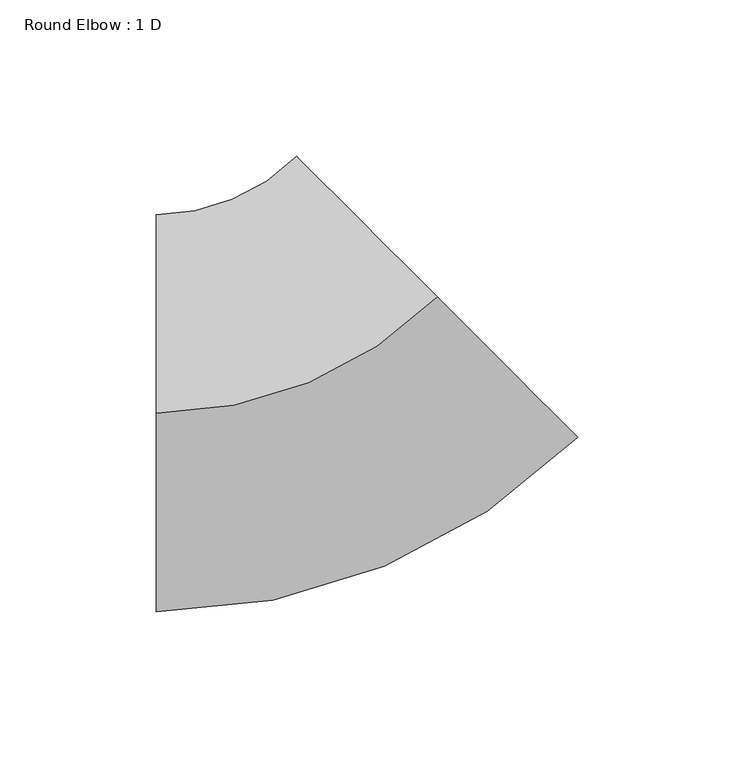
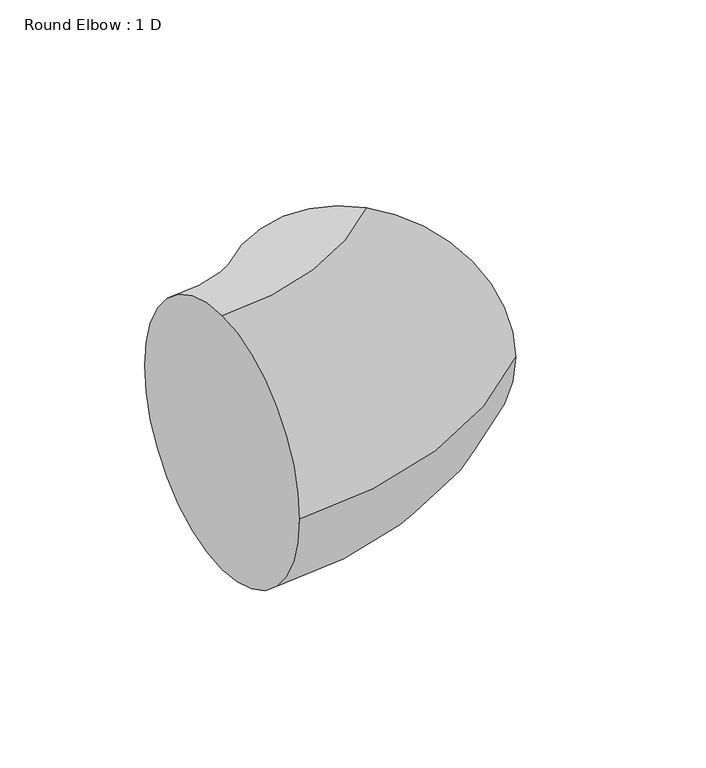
"""IFC4 building model written with IfcOpenShell, lengths in millimetres: duct fitting geometry, Round Elbow : 1 D."""

from ifc_helpers import new_model, si_unit, point, frame, origin, place, context, project, spatial, circle_curve, ellipse_curve, trimmed, source, transform, mapped, element, save
from ifc_brep_helpers import plane_surface, revolved_surface, advanced_brep


def round_elbow_1_d_e3dc691b(model_context):
    return source(origin(), model_context, "Body", "AdvancedBrep", [
        advanced_brep(
        [(-52.6051224, 0.0, 63.5), (-52.6051224, 63.5, 0.0), (-52.6051224, 0.0, -63.5), (-52.6051224, -63.5, 0.0), (37.1974388, 37.1974388, 63.5), (82.0987194, -7.7038418, 0.0), (37.1974388, 37.1974388, -63.5), (-7.7038418, 82.0987194, 0.0)],
        [
            (0, 1, circle_curve(frame((-52.6051224, 0.0, 0.0), z_axis=(-1.0, 0.0, 0.0), x_axis=(0.0, 1.0, 0.0)), 63.5)),
            (1, 2, circle_curve(frame((-52.6051224, 0.0, 0.0), z_axis=(-1.0, 0.0, 0.0), x_axis=(0.0, 1.0, 0.0)), 63.5)),
            (2, 3, circle_curve(frame((-52.6051224, 0.0, 0.0), z_axis=(-1.0, 0.0, 0.0), x_axis=(0.0, 1.0, 0.0)), 63.5)),
            (3, 0, circle_curve(frame((-52.6051224, 0.0, 0.0), z_axis=(-1.0, 0.0, 0.0), x_axis=(0.0, 1.0, 0.0)), 63.5)),
            (4, 5, circle_curve(frame((37.1974388, 37.1974388, 0.0), z_axis=(0.707106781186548, 0.707106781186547, 0.0), x_axis=(-0.707106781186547, 0.707106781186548, 0.0)), 63.5)),
            (5, 6, circle_curve(frame((37.1974388, 37.1974388, 0.0), z_axis=(0.707106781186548, 0.707106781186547, 0.0), x_axis=(-0.707106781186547, 0.707106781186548, 0.0)), 63.5)),
            (6, 7, circle_curve(frame((37.1974388, 37.1974388, 0.0), z_axis=(0.707106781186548, 0.707106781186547, 0.0), x_axis=(-0.707106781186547, 0.707106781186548, 0.0)), 63.5)),
            (7, 4, circle_curve(frame((37.1974388, 37.1974388, 0.0), z_axis=(0.707106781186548, 0.707106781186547, 0.0), x_axis=(-0.707106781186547, 0.707106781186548, 0.0)), 63.5)),
            (7, 1, circle_curve(frame((-52.6051224, 127.0, 0.0), z_axis=(0.0, 0.0, -1.0), x_axis=(0.0, -1.0, 0.0)), 63.5)),
            (0, 4, circle_curve(frame((-52.6051224, 127.0, 63.5), z_axis=(0.0, 0.0, 1.0), x_axis=(0.0, -1.0, 0.0)), 127.0)),
            (6, 2, circle_curve(frame((-52.6051224, 127.0, -63.5), z_axis=(0.0, 0.0, -1.0), x_axis=(0.0, -1.0, 0.0)), 127.0)),
            (5, 3, circle_curve(frame((-52.6051224, 127.0, 0.0), z_axis=(0.0, 0.0, -1.0), x_axis=(0.0, -1.0, 0.0)), 190.5)),
        ],
        [
            plane_surface(frame((-52.6051224, 0.0, 0.0), z_axis=(-1.0, 0.0, 0.0), x_axis=(0.0, 0.0, 1.0))),
            plane_surface(frame((37.1974388, 37.1974388, 0.0), z_axis=(0.707106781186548, 0.7071067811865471, 0.0), x_axis=(0.0, 0.0, 1.0))),
            revolved_surface(trimmed(ellipse_curve(frame((-52.6051224, 0.0, 0.0), z_axis=(-1.0, 0.0, 0.0), x_axis=(0.0, 1.0, 0.0)), 63.5, 63.5), [point((-52.6051224, 0.0, 63.5))], [point((-52.6051224, 63.5, 0.0))], True, "CARTESIAN"), (-52.6051224, 127.0, 0.0), (0.0, 0.0, 1.0)),
            revolved_surface(trimmed(ellipse_curve(frame((-52.6051224, 0.0, 0.0), z_axis=(-1.0, 0.0, 0.0), x_axis=(0.0, 1.0, 0.0)), 63.5, 63.5), [point((-52.6051224, 63.5, 0.0))], [point((-52.6051224, 0.0, -63.5))], True, "CARTESIAN"), (-52.6051224, 127.0, 0.0), (0.0, 0.0, 1.0)),
            revolved_surface(trimmed(ellipse_curve(frame((-52.6051224, 0.0, 0.0), z_axis=(-1.0, 0.0, 0.0), x_axis=(0.0, 1.0, 0.0)), 63.5, 63.5), [point((-52.6051224, 0.0, -63.5))], [point((-52.6051224, -63.5, 0.0))], True, "CARTESIAN"), (-52.6051224, 127.0, 0.0), (0.0, 0.0, 1.0)),
            revolved_surface(trimmed(ellipse_curve(frame((-52.6051224, 0.0, 0.0), z_axis=(-1.0, 0.0, 0.0), x_axis=(0.0, 1.0, 0.0)), 63.5, 63.5), [point((-52.6051224, -63.5, 0.0))], [point((-52.6051224, 0.0, 63.5))], True, "CARTESIAN"), (-52.6051224, 127.0, 0.0), (0.0, 0.0, 1.0)),
        ],
        [
            (0, [[1, 2, 3, 4]]),
            (1, [[5, 6, 7, 8]]),
            (2, [[9, -1, 10, -8]]),
            (3, [[11, -2, -9, -7]]),
            (4, [[12, -3, -11, -6]]),
            (5, [[-10, -4, -12, -5]]),
        ],
    ),
    ])


if __name__ == "__main__":
    model = new_model("IFC4")
    model_context = context("Model", 3, world=origin())
    ifc_project = project(units=[si_unit("LENGTHUNIT", "METRE", prefix="MILLI")], contexts=[model_context])
    site = spatial("IfcSite", under=ifc_project)
    building = spatial("IfcBuilding", under=site)
    placement = place(None, origin())
    round_elbow_1_d_shape = round_elbow_1_d_e3dc691b(model_context)
    element("IfcDuctFitting", 1, ObjectType="Round Elbow : 1 D", at=placement, inside=building, context=model_context, shape_type="MappedRepresentation", body=[
        mapped(round_elbow_1_d_shape, transform((0.0, 0.0, 0.0), x_axis=(1.0, 0.0, 0.0), y_axis=(0.0, 1.0, 0.0), z_axis=(0.0, 0.0, 1.0))),
    ])
    save(model, "model.ifc")
